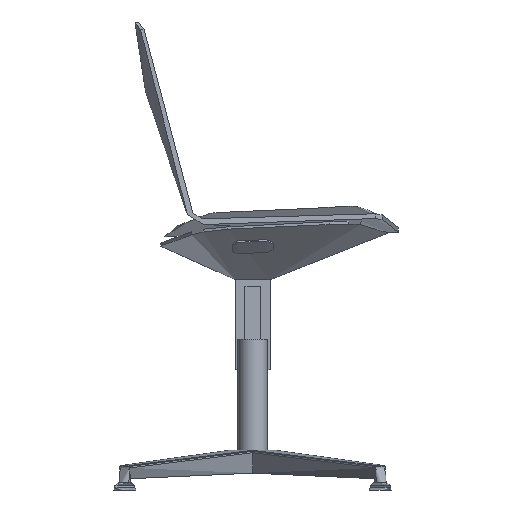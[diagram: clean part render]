
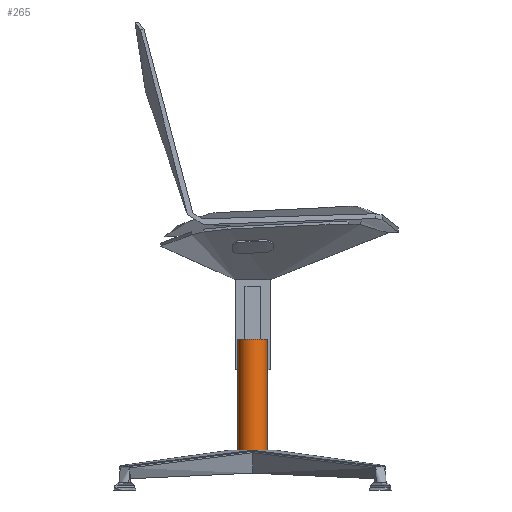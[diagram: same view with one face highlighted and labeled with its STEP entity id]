
A CAD part, left-side view. The second image highlights one B-rep face of the part: STEP entity #265.
In plain terms, the highlighted free-form (B-spline) face has degree [2, 1] with [5, 2] control points.
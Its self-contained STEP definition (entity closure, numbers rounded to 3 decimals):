
#18=(
BOUNDED_CURVE()
B_SPLINE_CURVE(2,(#3283,#3284,#3285,#3286,#3287),.UNSPECIFIED.,.F.,.F.)
B_SPLINE_CURVE_WITH_KNOTS((3,2,3),(0.,39.27,78.54),
 .UNSPECIFIED.)
CURVE()
GEOMETRIC_REPRESENTATION_ITEM()
RATIONAL_B_SPLINE_CURVE((1.,0.707,1.,0.707,1.))
REPRESENTATION_ITEM('')
);
#19=(
BOUNDED_CURVE()
B_SPLINE_CURVE(1,(#3288,#3289),.UNSPECIFIED.,.F.,.F.)
B_SPLINE_CURVE_WITH_KNOTS((2,2),(0.,200.),.UNSPECIFIED.)
CURVE()
GEOMETRIC_REPRESENTATION_ITEM()
RATIONAL_B_SPLINE_CURVE((1.,1.))
REPRESENTATION_ITEM('')
);
#20=(
BOUNDED_CURVE()
B_SPLINE_CURVE(2,(#3290,#3291,#3292,#3293,#3294),.UNSPECIFIED.,.F.,.F.)
B_SPLINE_CURVE_WITH_KNOTS((3,2,3),(0.,39.27,78.54),
 .UNSPECIFIED.)
CURVE()
GEOMETRIC_REPRESENTATION_ITEM()
RATIONAL_B_SPLINE_CURVE((1.,0.707,1.,0.707,1.))
REPRESENTATION_ITEM('')
);
#21=(
BOUNDED_CURVE()
B_SPLINE_CURVE(1,(#3295,#3296),.UNSPECIFIED.,.F.,.F.)
B_SPLINE_CURVE_WITH_KNOTS((2,2),(0.,200.),.UNSPECIFIED.)
CURVE()
GEOMETRIC_REPRESENTATION_ITEM()
RATIONAL_B_SPLINE_CURVE((1.,1.))
REPRESENTATION_ITEM('')
);
#131=(
BOUNDED_SURFACE()
B_SPLINE_SURFACE(2,1,((#3259,#3260),(#3261,#3262),(#3263,#3264),(#3265,
#3266),(#3267,#3268)),.UNSPECIFIED.,.F.,.F.,.F.)
B_SPLINE_SURFACE_WITH_KNOTS((3,2,3),(2,2),(0.,39.27,78.54),
(0.,200.),.UNSPECIFIED.)
GEOMETRIC_REPRESENTATION_ITEM()
RATIONAL_B_SPLINE_SURFACE(((1.,1.),(0.707,0.707),
(1.,1.),(0.707,0.707),(1.,1.)))
REPRESENTATION_ITEM('')
SURFACE()
);
#265=ADVANCED_FACE('',(#404),#131,.T.);
#404=FACE_OUTER_BOUND('',#543,.T.);
#543=EDGE_LOOP('',(#691,#692,#693,#694));
#691=ORIENTED_EDGE('',*,*,#1254,.T.);
#692=ORIENTED_EDGE('',*,*,#1253,.F.);
#693=ORIENTED_EDGE('',*,*,#1252,.F.);
#694=ORIENTED_EDGE('',*,*,#1251,.T.);
#1251=EDGE_CURVE('',#1787,#1788,#18,.T.);
#1252=EDGE_CURVE('',#1787,#1786,#19,.T.);
#1253=EDGE_CURVE('',#1786,#1789,#20,.T.);
#1254=EDGE_CURVE('',#1788,#1789,#21,.T.);
#1786=VERTEX_POINT('',#3279);
#1787=VERTEX_POINT('',#3280);
#1788=VERTEX_POINT('',#3281);
#1789=VERTEX_POINT('',#3282);
#3259=CARTESIAN_POINT('',(0.,25.,59.087));
#3260=CARTESIAN_POINT('',(0.,25.,259.087));
#3261=CARTESIAN_POINT('',(-25.,25.,59.087));
#3262=CARTESIAN_POINT('',(-25.,25.,259.087));
#3263=CARTESIAN_POINT('',(-25.,0.,59.087));
#3264=CARTESIAN_POINT('',(-25.,0.,259.087));
#3265=CARTESIAN_POINT('',(-25.,-25.,59.087));
#3266=CARTESIAN_POINT('',(-25.,-25.,259.087));
#3267=CARTESIAN_POINT('',(0.,-25.,59.087));
#3268=CARTESIAN_POINT('',(0.,-25.,259.087));
#3279=CARTESIAN_POINT('',(0.,25.,259.087));
#3280=CARTESIAN_POINT('',(0.,25.,59.087));
#3281=CARTESIAN_POINT('',(0.,-25.,59.087));
#3282=CARTESIAN_POINT('',(0.,-25.,259.087));
#3283=CARTESIAN_POINT('',(0.,25.,59.087));
#3284=CARTESIAN_POINT('',(-25.,25.,59.087));
#3285=CARTESIAN_POINT('',(-25.,0.,59.087));
#3286=CARTESIAN_POINT('',(-25.,-25.,59.087));
#3287=CARTESIAN_POINT('',(0.,-25.,59.087));
#3288=CARTESIAN_POINT('',(0.,25.,59.087));
#3289=CARTESIAN_POINT('',(0.,25.,259.087));
#3290=CARTESIAN_POINT('',(0.,25.,259.087));
#3291=CARTESIAN_POINT('',(-25.,25.,259.087));
#3292=CARTESIAN_POINT('',(-25.,0.,259.087));
#3293=CARTESIAN_POINT('',(-25.,-25.,259.087));
#3294=CARTESIAN_POINT('',(0.,-25.,259.087));
#3295=CARTESIAN_POINT('',(0.,-25.,59.087));
#3296=CARTESIAN_POINT('',(0.,-25.,259.087));
